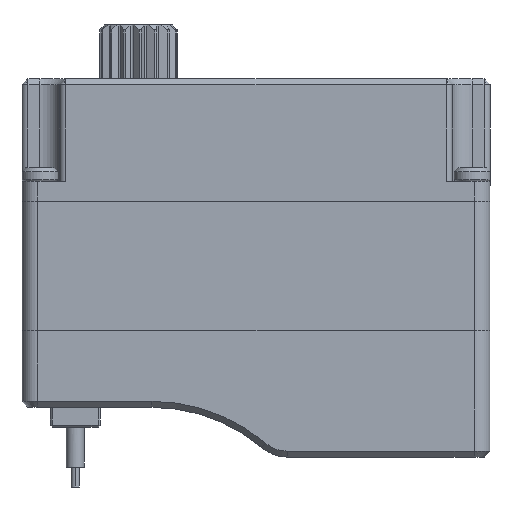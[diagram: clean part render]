
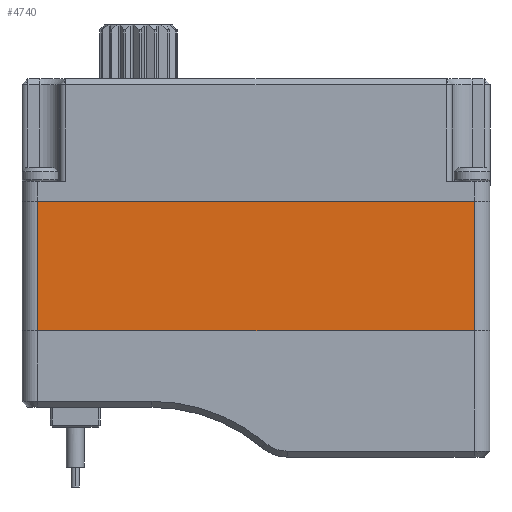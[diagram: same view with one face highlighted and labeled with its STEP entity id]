
A CAD part, front view. The second image highlights one B-rep face of the part: STEP entity #4740.
In plain terms, the highlighted planar face has unit normal (0, -1, 0).
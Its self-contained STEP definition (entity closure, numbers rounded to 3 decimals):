
#94 = CARTESIAN_POINT ( 'NONE',  ( -52.478, -7.631, 26.355 ) ) ;
#906 = LINE ( 'NONE', #13477, #5757 ) ;
#1077 = VERTEX_POINT ( 'NONE', #94 ) ;
#1458 = FACE_OUTER_BOUND ( 'NONE', #13717, .T. ) ;
#2223 = LINE ( 'NONE', #11342, #10749 ) ;
#2234 = VERTEX_POINT ( 'NONE', #4717 ) ;
#2598 = CARTESIAN_POINT ( 'NONE',  ( -29.778, -7.631, 26.355 ) ) ;
#2621 = AXIS2_PLACEMENT_3D ( 'NONE', #2598, #6940, #10207 ) ;
#2633 = EDGE_CURVE ( 'NONE', #10683, #2234, #906, .T. ) ;
#3741 = ORIENTED_EDGE ( 'NONE', *, *, #8042, .T. ) ;
#4717 = CARTESIAN_POINT ( 'NONE',  ( -52.478, -7.631, 19.855 ) ) ;
#4740 = ADVANCED_FACE ( 'NONE', ( #1458 ), #11101, .T. ) ;
#5757 = VECTOR ( 'NONE', #12418, 1000. ) ;
#5837 = DIRECTION ( 'NONE',  ( 0., 0., -1. ) ) ;
#6940 = DIRECTION ( 'NONE',  ( 0., -1., 0. ) ) ;
#7023 = ORIENTED_EDGE ( 'NONE', *, *, #9602, .F. ) ;
#7670 = DIRECTION ( 'NONE',  ( 0., 0., -1. ) ) ;
#8042 = EDGE_CURVE ( 'NONE', #1077, #2234, #2223, .T. ) ;
#8050 = CARTESIAN_POINT ( 'NONE',  ( -30.578, -7.631, 26.355 ) ) ;
#8759 = ORIENTED_EDGE ( 'NONE', *, *, #2633, .F. ) ;
#8856 = CARTESIAN_POINT ( 'NONE',  ( -29.778, -7.631, 26.355 ) ) ;
#9030 = EDGE_CURVE ( 'NONE', #10790, #10683, #9937, .T. ) ;
#9513 = VECTOR ( 'NONE', #11127, 1000. ) ;
#9602 = EDGE_CURVE ( 'NONE', #1077, #10790, #12484, .T. ) ;
#9937 = LINE ( 'NONE', #9958, #12220 ) ;
#9958 = CARTESIAN_POINT ( 'NONE',  ( -30.578, -7.631, 26.355 ) ) ;
#10207 = DIRECTION ( 'NONE',  ( 0., 0., -1. ) ) ;
#10683 = VERTEX_POINT ( 'NONE', #11289 ) ;
#10749 = VECTOR ( 'NONE', #5837, 1000. ) ;
#10790 = VERTEX_POINT ( 'NONE', #8050 ) ;
#11101 = PLANE ( 'NONE',  #2621 ) ;
#11127 = DIRECTION ( 'NONE',  ( 1., 0., 0. ) ) ;
#11289 = CARTESIAN_POINT ( 'NONE',  ( -30.578, -7.631, 19.855 ) ) ;
#11342 = CARTESIAN_POINT ( 'NONE',  ( -52.478, -7.631, 26.355 ) ) ;
#12220 = VECTOR ( 'NONE', #7670, 1000. ) ;
#12325 = ORIENTED_EDGE ( 'NONE', *, *, #9030, .F. ) ;
#12418 = DIRECTION ( 'NONE',  ( -1., 0., 0. ) ) ;
#12484 = LINE ( 'NONE', #8856, #9513 ) ;
#13477 = CARTESIAN_POINT ( 'NONE',  ( -34.608, -7.631, 19.855 ) ) ;
#13717 = EDGE_LOOP ( 'NONE', ( #7023, #3741, #8759, #12325 ) ) ;
